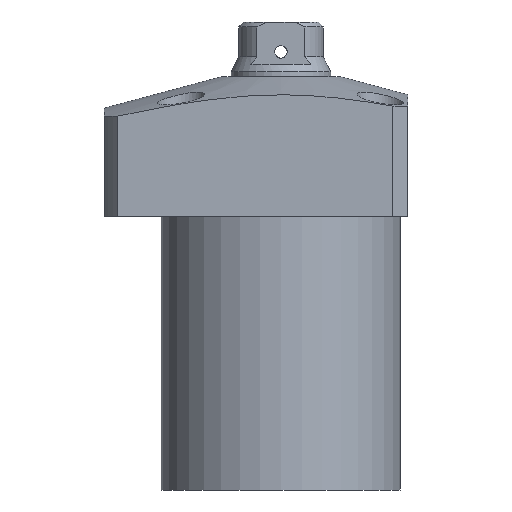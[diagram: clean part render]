
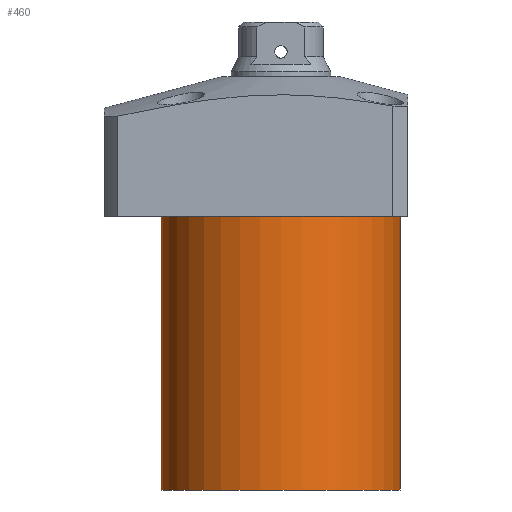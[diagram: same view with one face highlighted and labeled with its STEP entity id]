
A CAD part, front view. The second image highlights one B-rep face of the part: STEP entity #460.
In plain terms, the highlighted cylindrical face has radius 24 mm (diameter 48 mm), a partial arc.
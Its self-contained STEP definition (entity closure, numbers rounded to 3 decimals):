
#13 = CARTESIAN_POINT ( 'NONE',  ( 24., 0., -14. ) ) ;
#18 = AXIS2_PLACEMENT_3D ( 'NONE', #1392, #133, #972 ) ;
#22 = AXIS2_PLACEMENT_3D ( 'NONE', #1616, #1219, #443 ) ;
#93 = CARTESIAN_POINT ( 'NONE',  ( 24., 0., -69. ) ) ;
#133 = DIRECTION ( 'NONE',  ( 0., 0., -1. ) ) ;
#212 = CARTESIAN_POINT ( 'NONE',  ( -24., 0., -14. ) ) ;
#285 = ORIENTED_EDGE ( 'NONE', *, *, #380, .T. ) ;
#380 = EDGE_CURVE ( 'NONE', #2383, #723, #701, .T. ) ;
#443 = DIRECTION ( 'NONE',  ( 1., 0., 0. ) ) ;
#460 = ADVANCED_FACE ( 'NONE', ( #951 ), #1967, .T. ) ;
#502 = CARTESIAN_POINT ( 'NONE',  ( 24., 0., -69. ) ) ;
#565 = CARTESIAN_POINT ( 'NONE',  ( -24., 0., -69. ) ) ;
#592 = EDGE_LOOP ( 'NONE', ( #2181, #1882, #285, #2525 ) ) ;
#701 = LINE ( 'NONE', #502, #2678 ) ;
#723 = VERTEX_POINT ( 'NONE', #13 ) ;
#770 = CARTESIAN_POINT ( 'NONE',  ( -24., 0., -69. ) ) ;
#868 = CARTESIAN_POINT ( 'NONE',  ( 0., 0., -14. ) ) ;
#922 = EDGE_CURVE ( 'NONE', #2618, #2200, #2509, .T. ) ;
#951 = FACE_OUTER_BOUND ( 'NONE', #592, .T. ) ;
#972 = DIRECTION ( 'NONE',  ( -1., 0., 0. ) ) ;
#1179 = VECTOR ( 'NONE', #2390, 1000. ) ;
#1219 = DIRECTION ( 'NONE',  ( 0., 0., 1. ) ) ;
#1245 = CIRCLE ( 'NONE', #1450, 24. ) ;
#1392 = CARTESIAN_POINT ( 'NONE',  ( 0., 0., -69. ) ) ;
#1450 = AXIS2_PLACEMENT_3D ( 'NONE', #868, #2325, #2315 ) ;
#1616 = CARTESIAN_POINT ( 'NONE',  ( 0., 0., -69. ) ) ;
#1748 = DIRECTION ( 'NONE',  ( 0., 0., 1. ) ) ;
#1856 = EDGE_CURVE ( 'NONE', #723, #2200, #1245, .T. ) ;
#1882 = ORIENTED_EDGE ( 'NONE', *, *, #2077, .F. ) ;
#1967 = CYLINDRICAL_SURFACE ( 'NONE', #22, 24. ) ;
#2077 = EDGE_CURVE ( 'NONE', #2383, #2618, #2450, .T. ) ;
#2181 = ORIENTED_EDGE ( 'NONE', *, *, #922, .F. ) ;
#2200 = VERTEX_POINT ( 'NONE', #212 ) ;
#2315 = DIRECTION ( 'NONE',  ( 1., 0., 0. ) ) ;
#2325 = DIRECTION ( 'NONE',  ( 0., 0., -1. ) ) ;
#2383 = VERTEX_POINT ( 'NONE', #93 ) ;
#2390 = DIRECTION ( 'NONE',  ( 0., 0., 1. ) ) ;
#2450 = CIRCLE ( 'NONE', #18, 24. ) ;
#2509 = LINE ( 'NONE', #770, #1179 ) ;
#2525 = ORIENTED_EDGE ( 'NONE', *, *, #1856, .T. ) ;
#2618 = VERTEX_POINT ( 'NONE', #565 ) ;
#2678 = VECTOR ( 'NONE', #1748, 1000. ) ;
